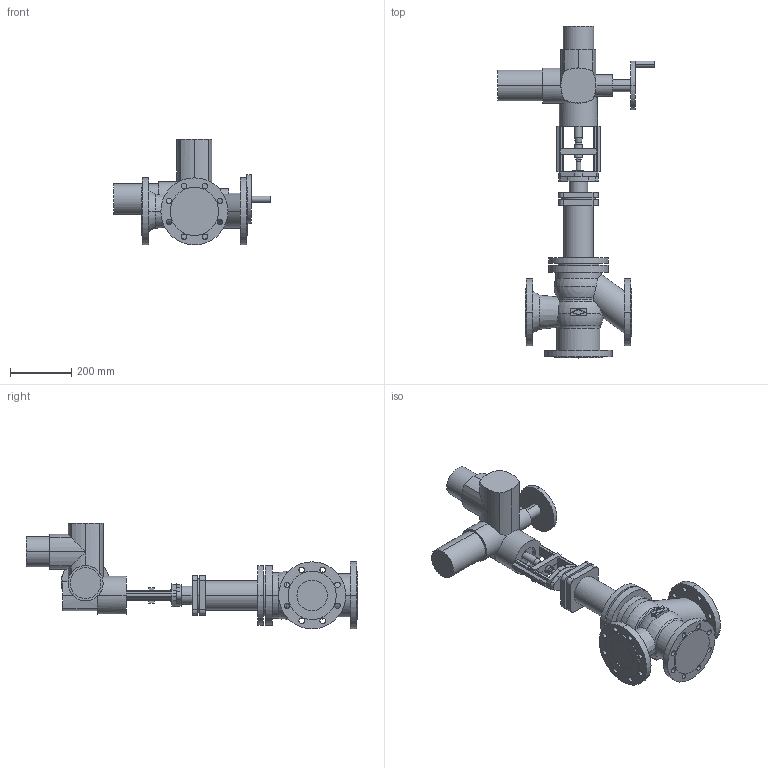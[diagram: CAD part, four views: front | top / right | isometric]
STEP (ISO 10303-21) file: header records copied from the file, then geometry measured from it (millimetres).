
FILE_DESCRIPTION(('OneSpaceDesigner STEP Export'),'2;1');
FILE_NAME('c000003197.stp','2007-01-25T11:51:01',(''),(''),'OneSpace Designer STEP processor for AP214 (Solid Model)','OneSpace Designer 14.00B 27-May-2006 (C) CoCreate Software GmbH','');
FILE_SCHEMA(('AUTOMOTIVE_DESIGN { 1 0 10303 214 1 1 1 1 }'));
Length unit declared in the file: millimetre
Products named in the file (2): 1; 2
Bounding box: 514 x 1087.7 x 347 mm (x, y, z)
Volume: 20783977.5 mm3; surface area: 1097207.5 mm2
Topology: 2 solids, 2 shells, 345 faces, 898 edges, 576 vertices
Faces by surface type: cylinder 180, plane 143, torus 10, cone 8, sphere 4
Entity records: 10032 total; most frequent: CARTESIAN_POINT 2144, ORIENTED_EDGE 1788, DIRECTION 1450, EDGE_CURVE 894, VERTEX_POINT 576, AXIS2_PLACEMENT_3D 500, VECTOR 450, LINE 450
